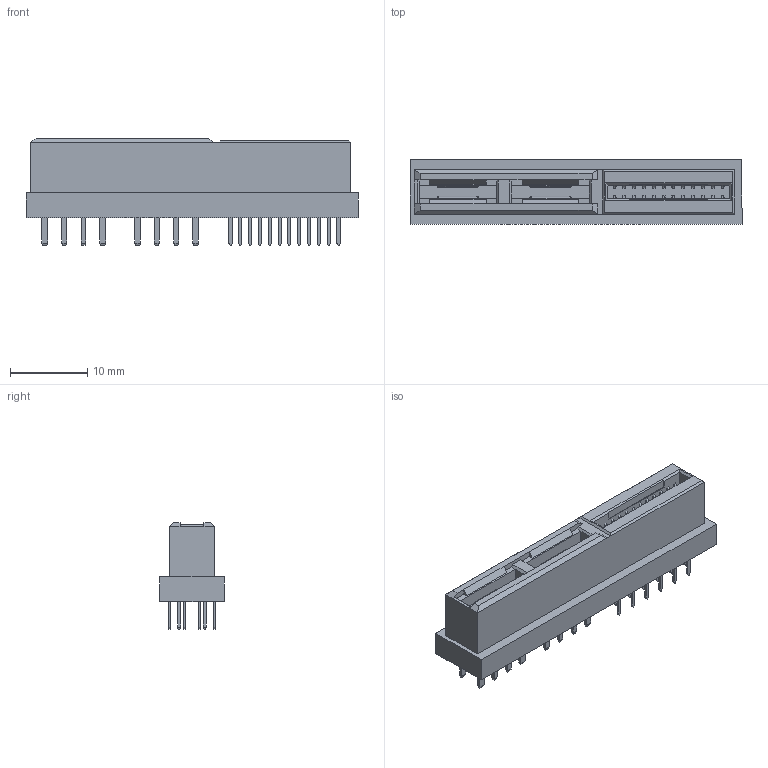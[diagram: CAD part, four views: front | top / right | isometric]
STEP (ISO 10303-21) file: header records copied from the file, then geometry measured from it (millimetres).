
FILE_DESCRIPTION (( 'STEP AP214' ), '1' );
FILE_NAME ('9392-A2P04S24N13CB30DA.STEP', '2025-10-03T08:45:15', ( '' ), ( '' ), 'SwSTEP 2.0', 'SolidWorks 2023', '' );
FILE_SCHEMA (( 'AUTOMOTIVE_DESIGN' ));
Length unit declared in the file: millimetre
Products named in the file (1): 9392-A2P04S24N13CB30DA
Bounding box: 42.95 x 8.33 x 13.81 mm (x, y, z)
Volume: 2345 mm3; surface area: 2557.1 mm2
Topology: 1 solids, 1 shells, 873 faces, 2351 edges, 1526 vertices
Faces by surface type: plane 621, cylinder 220, bspline 32
Entity records: 27618 total; most frequent: CARTESIAN_POINT 6293, ORIENTED_EDGE 4702, DIRECTION 3965, EDGE_CURVE 2351, LINE 1801, VECTOR 1801, VERTEX_POINT 1526, AXIS2_PLACEMENT_3D 1082
